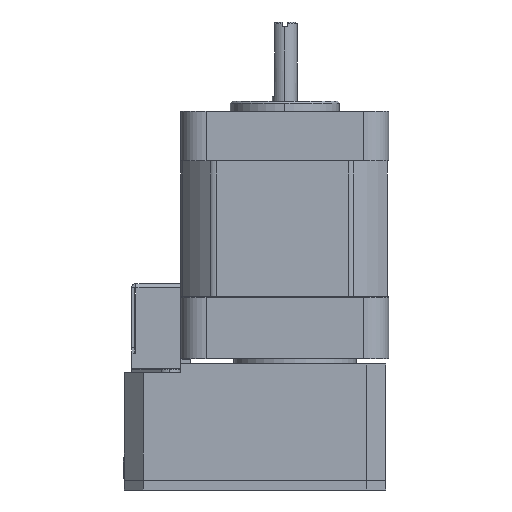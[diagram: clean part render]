
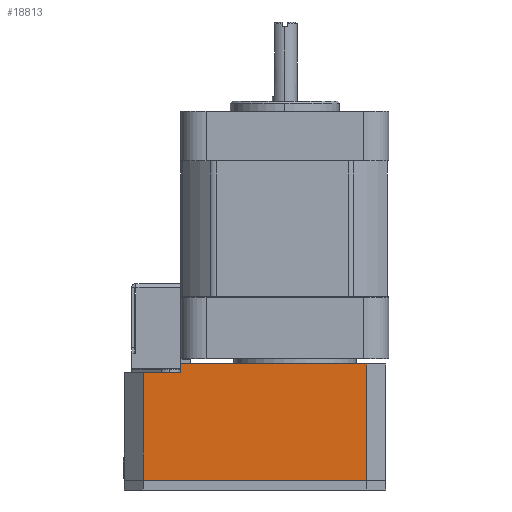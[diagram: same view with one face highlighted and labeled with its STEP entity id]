
A CAD part, left-side view. The second image highlights one B-rep face of the part: STEP entity #18813.
In plain terms, the highlighted planar face has unit normal (-1, 0, 0).
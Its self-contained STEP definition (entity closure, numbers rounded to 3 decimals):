
#295 = EDGE_LOOP ( 'NONE', ( #6554, #6556, #6562, #6563, #6564, #6557 ) ) ;
#1320 = DIRECTION ( 'NONE',  ( 0., 0., 1. ) ) ;
#1341 = CARTESIAN_POINT ( 'NONE',  ( -35.285, -26.78, -52.484 ) ) ;
#2176 = CARTESIAN_POINT ( 'NONE',  ( -35.285, 10.87, -40.734 ) ) ;
#2206 = CARTESIAN_POINT ( 'NONE',  ( -35.285, -26.78, -40.734 ) ) ;
#5644 = VECTOR ( 'NONE', #1320, 1000. ) ;
#5645 = LINE ( 'NONE', #1341, #5644 ) ;
#5752 = VECTOR ( 'NONE', #10542, 1000. ) ;
#5753 = LINE ( 'NONE', #10547, #5752 ) ;
#6554 = ORIENTED_EDGE ( 'NONE', *, *, #9067, .T. ) ;
#6556 = ORIENTED_EDGE ( 'NONE', *, *, #9785, .T. ) ;
#6557 = ORIENTED_EDGE ( 'NONE', *, *, #8946, .T. ) ;
#6562 = ORIENTED_EDGE ( 'NONE', *, *, #9753, .T. ) ;
#6563 = ORIENTED_EDGE ( 'NONE', *, *, #9788, .T. ) ;
#6564 = ORIENTED_EDGE ( 'NONE', *, *, #9783, .F. ) ;
#6999 = CARTESIAN_POINT ( 'NONE',  ( -35.285, 18.52, -64.234 ) ) ;
#7086 = CARTESIAN_POINT ( 'NONE',  ( -35.285, 18.52, -42.484 ) ) ;
#8946 = EDGE_CURVE ( 'NONE', #18320, #18030, #5645, .T. ) ;
#9067 = EDGE_CURVE ( 'NONE', #18030, #18054, #5753, .T. ) ;
#9753 = EDGE_CURVE ( 'NONE', #18251, #18471, #17963, .T. ) ;
#9783 = EDGE_CURVE ( 'NONE', #18320, #18432, #17532, .T. ) ;
#9785 = EDGE_CURVE ( 'NONE', #18054, #18251, #17545, .T. ) ;
#9788 = EDGE_CURVE ( 'NONE', #18471, #18432, #17546, .T. ) ;
#10542 = DIRECTION ( 'NONE',  ( 0., 1., 0. ) ) ;
#10547 = CARTESIAN_POINT ( 'NONE',  ( -35.285, -4.13, -40.734 ) ) ;
#11812 = CARTESIAN_POINT ( 'NONE',  ( -35.285, -26.78, -64.234 ) ) ;
#12121 = AXIS2_PLACEMENT_3D ( 'NONE', #19433, #19434, #19435 ) ;
#14051 = CARTESIAN_POINT ( 'NONE',  ( -35.285, 16.62, -42.484 ) ) ;
#14052 = DIRECTION ( 'NONE',  ( 0., 1., 0. ) ) ;
#14092 = CARTESIAN_POINT ( 'NONE',  ( -35.285, -4.13, -64.234 ) ) ;
#14093 = DIRECTION ( 'NONE',  ( 0., 1., 0. ) ) ;
#14095 = CARTESIAN_POINT ( 'NONE',  ( -35.285, 10.87, -52.484 ) ) ;
#14096 = DIRECTION ( 'NONE',  ( 0., 0., -1. ) ) ;
#14098 = CARTESIAN_POINT ( 'NONE',  ( -35.285, 18.52, -53.359 ) ) ;
#14099 = DIRECTION ( 'NONE',  ( 0., 0., -1. ) ) ;
#17144 = FACE_OUTER_BOUND ( 'NONE', #295, .T. ) ;
#17524 = VECTOR ( 'NONE', #14093, 1000. ) ;
#17532 = LINE ( 'NONE', #14092, #17524 ) ;
#17544 = VECTOR ( 'NONE', #14099, 1000. ) ;
#17545 = LINE ( 'NONE', #14095, #17547 ) ;
#17546 = LINE ( 'NONE', #14098, #17544 ) ;
#17547 = VECTOR ( 'NONE', #14096, 1000. ) ;
#17961 = VECTOR ( 'NONE', #14052, 1000. ) ;
#17963 = LINE ( 'NONE', #14051, #17961 ) ;
#18030 = VERTEX_POINT ( 'NONE', #2206 ) ;
#18054 = VERTEX_POINT ( 'NONE', #2176 ) ;
#18251 = VERTEX_POINT ( 'NONE', #20911 ) ;
#18320 = VERTEX_POINT ( 'NONE', #11812 ) ;
#18432 = VERTEX_POINT ( 'NONE', #6999 ) ;
#18471 = VERTEX_POINT ( 'NONE', #7086 ) ;
#18813 = ADVANCED_FACE ( 'NONE', ( #17144 ), #19432, .T. ) ;
#19432 = PLANE ( 'NONE',  #12121 ) ;
#19433 = CARTESIAN_POINT ( 'NONE',  ( -35.285, 18.52, -64.234 ) ) ;
#19434 = DIRECTION ( 'NONE',  ( -1., 0., 0. ) ) ;
#19435 = DIRECTION ( 'NONE',  ( 0., -1., 0. ) ) ;
#20911 = CARTESIAN_POINT ( 'NONE',  ( -35.285, 10.87, -42.484 ) ) ;
